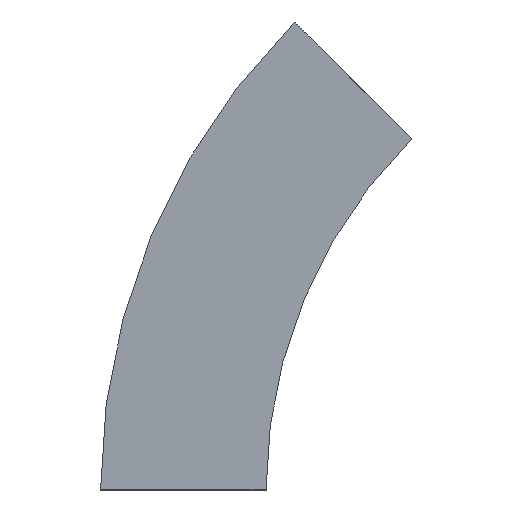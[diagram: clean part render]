
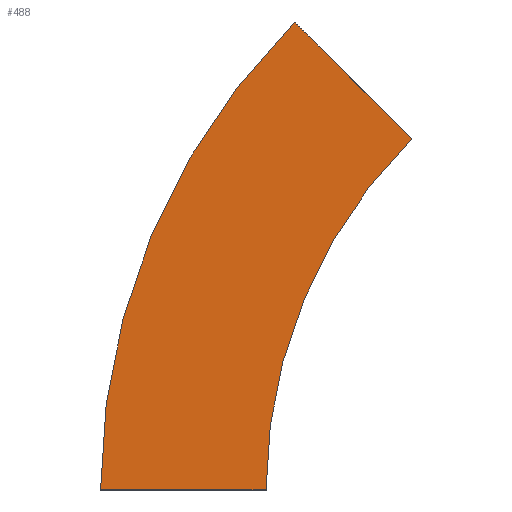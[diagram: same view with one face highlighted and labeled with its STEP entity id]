
A CAD part, left-side view. The second image highlights one B-rep face of the part: STEP entity #488.
In plain terms, the highlighted planar face has unit normal (-1, 0, 0) as drawn and (1, 0, 0) by its records, which use the part's own axes.
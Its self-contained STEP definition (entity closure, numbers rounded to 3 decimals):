
#8 = ORIENTED_EDGE ( 'NONE', *, *, #323, .F. ) ;
#33 = CARTESIAN_POINT ( 'NONE',  ( 0., -87.868, 212.132 ) ) ;
#36 = AXIS2_PLACEMENT_3D ( 'NONE', #336, #516, #139 ) ;
#40 = DIRECTION ( 'NONE',  ( 0., 0.707, 0.707 ) ) ;
#46 = AXIS2_PLACEMENT_3D ( 'NONE', #440, #489, #350 ) ;
#49 = EDGE_CURVE ( 'NONE', #510, #131, #269, .T. ) ;
#95 = CARTESIAN_POINT ( 'NONE',  ( 0., 100., 0. ) ) ;
#118 = LINE ( 'NONE', #514, #193 ) ;
#131 = VERTEX_POINT ( 'NONE', #384 ) ;
#134 = DIRECTION ( 'NONE',  ( 0., 1., 0. ) ) ;
#137 = DIRECTION ( 'NONE',  ( 1., 0., 0. ) ) ;
#139 = DIRECTION ( 'NONE',  ( 0., 0., -1. ) ) ;
#142 = EDGE_CURVE ( 'NONE', #505, #375, #474, .T. ) ;
#160 = EDGE_LOOP ( 'NONE', ( #208, #8, #247, #196 ) ) ;
#180 = CARTESIAN_POINT ( 'NONE',  ( 0., 0., 0. ) ) ;
#193 = VECTOR ( 'NONE', #294, 1000. ) ;
#196 = ORIENTED_EDGE ( 'NONE', *, *, #431, .T. ) ;
#208 = ORIENTED_EDGE ( 'NONE', *, *, #49, .T. ) ;
#219 = VECTOR ( 'NONE', #40, 1000. ) ;
#247 = ORIENTED_EDGE ( 'NONE', *, *, #142, .F. ) ;
#269 = CIRCLE ( 'NONE', #46, 400. ) ;
#283 = CARTESIAN_POINT ( 'NONE',  ( 0., -87.868, 212.132 ) ) ;
#294 = DIRECTION ( 'NONE',  ( 0., 1., 0. ) ) ;
#323 = EDGE_CURVE ( 'NONE', #375, #131, #506, .T. ) ;
#336 = CARTESIAN_POINT ( 'NONE',  ( 0., 0., 0. ) ) ;
#347 = FACE_OUTER_BOUND ( 'NONE', #160, .T. ) ;
#350 = DIRECTION ( 'NONE',  ( 0., 1., 0. ) ) ;
#375 = VERTEX_POINT ( 'NONE', #33 ) ;
#384 = CARTESIAN_POINT ( 'NONE',  ( 0., -17.157, 282.843 ) ) ;
#431 = EDGE_CURVE ( 'NONE', #505, #510, #118, .T. ) ;
#440 = CARTESIAN_POINT ( 'NONE',  ( 0., -300., 0. ) ) ;
#474 = CIRCLE ( 'NONE', #487, 300. ) ;
#487 = AXIS2_PLACEMENT_3D ( 'NONE', #522, #137, #134 ) ;
#488 = ADVANCED_FACE ( 'NONE', ( #347 ), #529, .T. ) ;
#489 = DIRECTION ( 'NONE',  ( 1., 0., 0. ) ) ;
#505 = VERTEX_POINT ( 'NONE', #180 ) ;
#506 = LINE ( 'NONE', #283, #219 ) ;
#510 = VERTEX_POINT ( 'NONE', #95 ) ;
#514 = CARTESIAN_POINT ( 'NONE',  ( 0., 0., 0. ) ) ;
#516 = DIRECTION ( 'NONE',  ( 1., 0., 0. ) ) ;
#522 = CARTESIAN_POINT ( 'NONE',  ( 0., -300., 0. ) ) ;
#529 = PLANE ( 'NONE',  #36 ) ;
